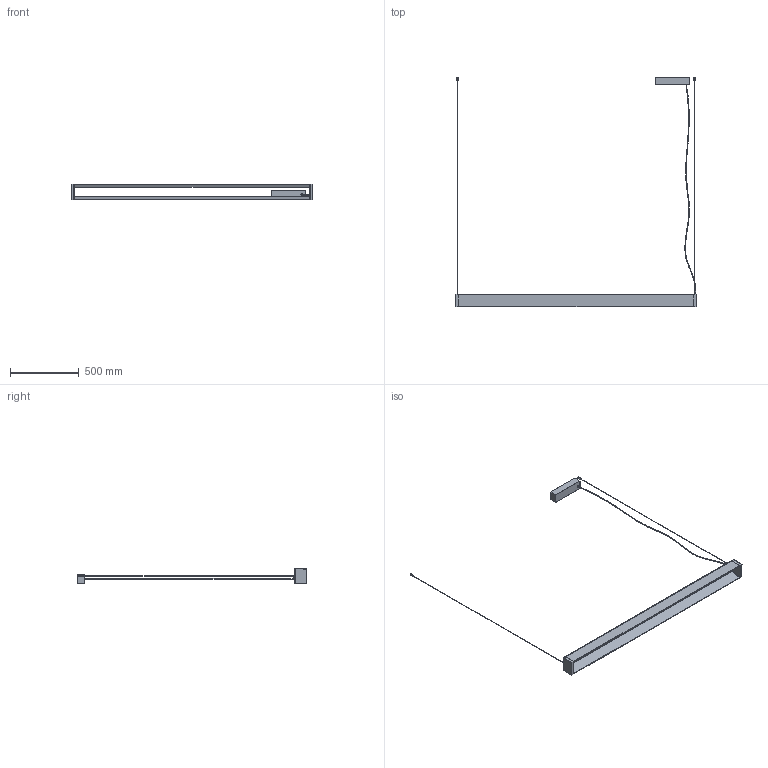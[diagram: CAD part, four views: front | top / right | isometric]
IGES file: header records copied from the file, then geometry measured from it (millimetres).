
Start section: SolidWorks IGES file using analytic representation for surfaces
Global section: file name: C:\Users\tungari.NEMOLIGHTING\Desktop\3D\PENDANT\3D_TRU_UPUP_HORIZONTAL\DEF2\3D_TRU_UPUP_H.IGS; native system: SolidWorks 2016; preprocessor: SolidWorks 2016; author: tungari; date: 180409.173452; units: millimetre
Bounding box: 1755.68 x 1673.7 x 112 mm (x, y, z)
Surface area: 1021624.4 mm2 (no closed solid volume)
Topology: 0 solids, 0 shells, 440 faces, 4256 edges, 4248 vertices
Faces by surface type: bspline 326, revolution 114
